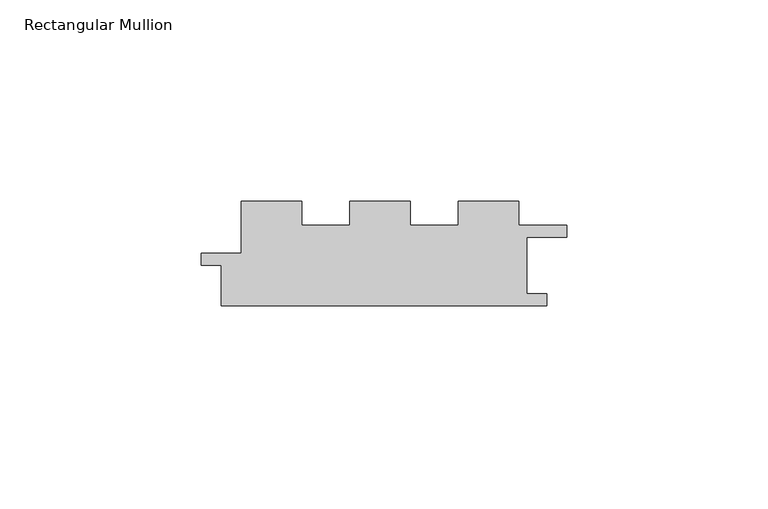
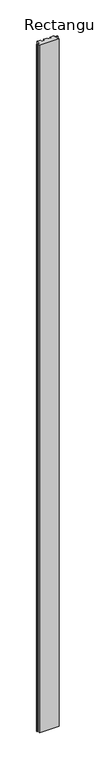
"""IFC4 building model written with IfcOpenShell, lengths in millimetres: member geometry, Rectangular Mullion : Cladding_Timber_Modinex_Castelation_81x26_AlaskanYellowCedar."""

from ifc_helpers import new_model, si_unit, frame, origin, place, context, project, spatial, polyline, outline, extrude, source, transform, mapped, element, save


def rectangular_mullion_eca9a012(model_context):
    return source(origin(), model_context, "Body", "SweptSolid", [
        extrude(outline(polyline([(15.0481486, 20.0), (27.0304703, 20.0), (27.0304703, 26.0), (42.0304703, 26.0), (42.0304703, 20.0), (54.0152351, 20.0), (54.0152351, 26.0), (69.0152351, 26.0), (69.0152351, 20.0), (81.0, 20.0), (81.0, 17.0), (71.0, 17.0), (71.0, 3.0), (76.0481486, 3.0), (76.0481486, 0.0), (-4.9518514, 0.0), (-4.9518514, 10.0), (-9.9518514, 10.0), (-9.9518514, 13.0), (0.0, 13.0), (0.0, 26.0), (15.0481486, 26.0), (15.0481486, 20.0)])), frame((0.0, 0.0, -3000.0), z_axis=(0.0, 0.0, 1.0), x_axis=(1.0, 0.0, 0.0)), (0.0, 0.0, 1.0), 3000.0),
    ])


if __name__ == "__main__":
    model = new_model("IFC4")
    model_context = context("Model", 3, world=origin())
    ifc_project = project(units=[si_unit("LENGTHUNIT", "METRE", prefix="MILLI")], contexts=[model_context])
    site = spatial("IfcSite", under=ifc_project)
    building = spatial("IfcBuilding", under=site)
    placement = place(None, origin())
    rectangular_mullion_shape = rectangular_mullion_eca9a012(model_context)
    element("IfcMember", 1, ObjectType="Rectangular Mullion : Cladding_Timber_Modinex_Castelation_81x26_AlaskanYellowCedar", at=placement, inside=building, context=model_context, shape_type="MappedRepresentation", body=[
        mapped(rectangular_mullion_shape, transform((0.0, 0.0, 0.0), x_axis=(1.0, 0.0, 0.0), y_axis=(0.0, 1.0, 0.0), z_axis=(0.0, 0.0, 1.0))),
    ])
    save(model, "model.ifc")
